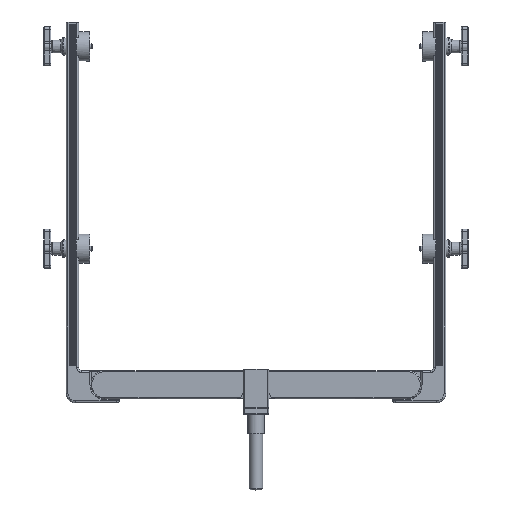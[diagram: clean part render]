
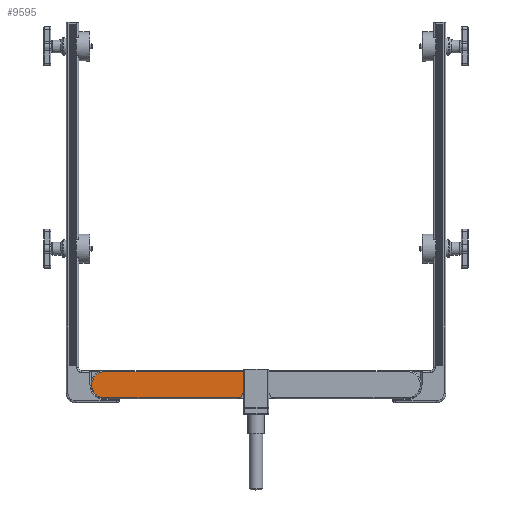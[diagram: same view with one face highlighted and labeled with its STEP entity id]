
A CAD part, top view. The second image highlights one B-rep face of the part: STEP entity #9595.
In plain terms, the highlighted planar face has unit normal (0, 0, 1).
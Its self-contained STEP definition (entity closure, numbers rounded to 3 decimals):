
#218=PLANE('',#13924);
#444=LINE('',#18786,#1046);
#458=LINE('',#18831,#1060);
#459=LINE('',#18837,#1061);
#1046=VECTOR('',#15348,1000.);
#1060=VECTOR('',#15392,1000.);
#1061=VECTOR('',#15399,1000.);
#1633=CIRCLE('',#13909,27.);
#1643=CIRCLE('',#13925,16.);
#2465=ORIENTED_EDGE('',*,*,#5161,.T.);
#2466=ORIENTED_EDGE('',*,*,#5160,.F.);
#2467=ORIENTED_EDGE('',*,*,#5185,.T.);
#2468=ORIENTED_EDGE('',*,*,#5186,.T.);
#2469=ORIENTED_EDGE('',*,*,#5183,.F.);
#5160=EDGE_CURVE('',#6523,#6522,#444,.T.);
#5161=EDGE_CURVE('',#6524,#6522,#1633,.T.);
#5183=EDGE_CURVE('',#6524,#6540,#458,.T.);
#5185=EDGE_CURVE('',#6523,#6541,#1643,.T.);
#5186=EDGE_CURVE('',#6541,#6540,#459,.T.);
#6522=VERTEX_POINT('',#18779);
#6523=VERTEX_POINT('',#18785);
#6524=VERTEX_POINT('',#18789);
#6540=VERTEX_POINT('',#18832);
#6541=VERTEX_POINT('',#18836);
#7321=EDGE_LOOP('',(#2465,#2466,#2467,#2468,#2469));
#8037=FACE_BOUND('',#7321,.T.);
#9595=ADVANCED_FACE('',(#8037),#218,.F.);
#13909=AXIS2_PLACEMENT_3D('',#18788,#15351,#15352);
#13924=AXIS2_PLACEMENT_3D('',#18834,#15395,#15396);
#13925=AXIS2_PLACEMENT_3D('',#18835,#15397,#15398);
#15348=DIRECTION('',(-1.,0.,0.));
#15351=DIRECTION('',(0.,0.,1.));
#15352=DIRECTION('',(0.,1.,0.));
#15392=DIRECTION('',(1.,0.,0.));
#15395=DIRECTION('',(0.,0.,-1.));
#15396=DIRECTION('',(0.,-1.,0.));
#15397=DIRECTION('',(0.,0.,1.));
#15398=DIRECTION('',(0.484,-0.875,0.));
#15399=DIRECTION('',(0.,1.,0.));
#18779=CARTESIAN_POINT('',(-309.006,45.063,19.176));
#18785=CARTESIAN_POINT('',(-33.76,45.063,19.176));
#18786=CARTESIAN_POINT('',(-33.76,45.063,19.176));
#18788=CARTESIAN_POINT('',(-309.006,72.063,19.176));
#18789=CARTESIAN_POINT('',(-309.006,99.063,19.176));
#18831=CARTESIAN_POINT('',(-309.006,99.063,19.176));
#18832=CARTESIAN_POINT('',(-25.506,99.063,19.176));
#18834=CARTESIAN_POINT('',(-279.006,43.063,19.176));
#18835=CARTESIAN_POINT('',(-41.506,59.063,19.176));
#18836=CARTESIAN_POINT('',(-25.506,59.063,19.176));
#18837=CARTESIAN_POINT('',(-25.506,59.063,19.176));
